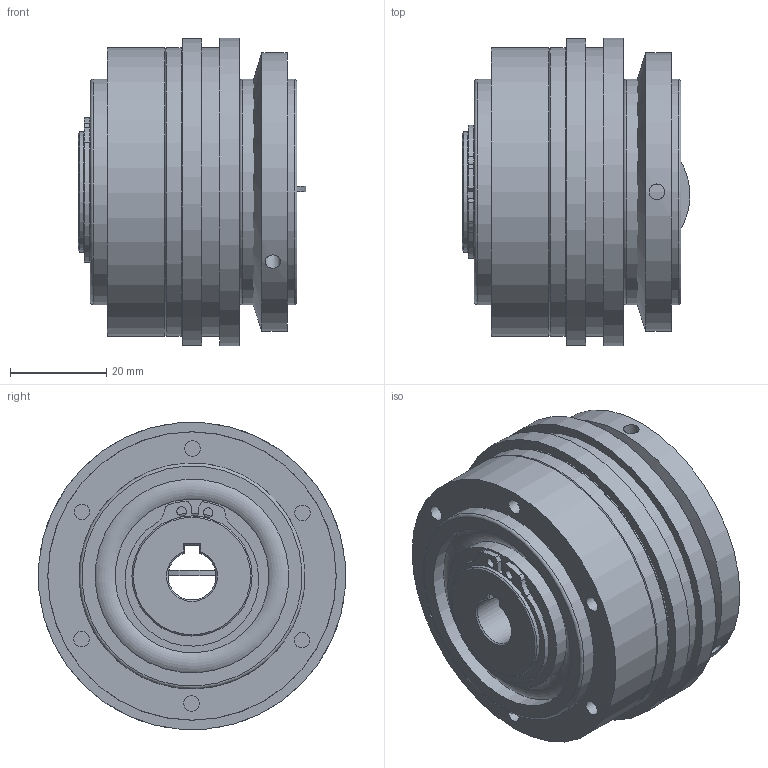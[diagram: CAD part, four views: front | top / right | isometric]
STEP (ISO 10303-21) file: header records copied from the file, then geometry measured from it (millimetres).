
FILE_DESCRIPTION( ( 'Unknown' ), '1' );
FILE_NAME( 'C:/Dokumente und Einstellungen/Sven/Desktop/hp kbk/KBK L-P-30.stp', 'Unknown', ( 'Unknown' ), ( 'Unknown' ), 'XStep 1.0', 'Unknown', ' ' );
FILE_SCHEMA( ( 'automotive_design' ) );
Length unit declared in the file: millimetre
Products named in the file (10): Assem1; Assem2; ball_bearing_-_6005_0_01; ball_bearing_-_6005_0_02; ball_bearing_-_6005_0_03; L-P-30 Grundkörper; Stellring 30; Druckring 30; a_25; Flansch L30
Bounding box: 47.35 x 64 x 64 mm (x, y, z)
Volume: 161391.7 mm3; surface area: 87703.2 mm2
Topology: 19 solids, 19 shells, 203 faces, 414 edges, 261 vertices
Faces by surface type: cylinder 84, plane 80, torus 23, cone 16
Full cylindrical faces by diameter (mm): 2 x4, 3.242 x18, 23.9 x2, 25 x7, 32 x6, 34 x2, 38 x4, 40 x2, 40.3 x6, 47 x5, 52 x2, 58 x2, 60 x4, 64 x2
Entity records: 2867 total; most frequent: CARTESIAN_POINT 653, DIRECTION 422, ORIENTED_EDGE 268, AXIS2_PLACEMENT_3D 191, EDGE_LOOP 168, EDGE_CURVE 134, FACE_OUTER_BOUND 129, VERTEX_POINT 110
